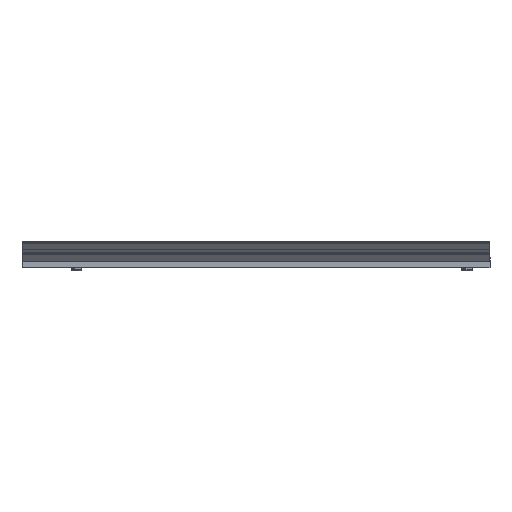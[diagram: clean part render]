
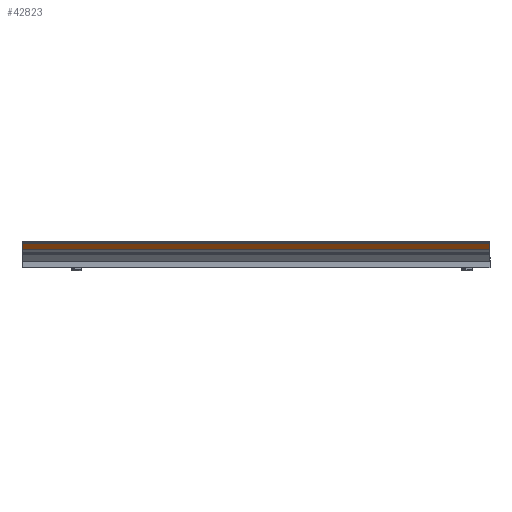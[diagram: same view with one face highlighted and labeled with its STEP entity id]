
A CAD part, left-side view. The second image highlights one B-rep face of the part: STEP entity #42823.
In plain terms, the highlighted planar face has unit normal (-0.763, 0, -0.646) as drawn and (-0.764, 0.646, 0) by its records, which use the part's own axes.
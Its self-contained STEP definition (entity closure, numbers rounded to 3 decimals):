
#1925 = DIRECTION ( 'NONE',  ( -0.646, -0.764, 0. ) ) ;
#2228 = DIRECTION ( 'NONE',  ( 0.764, -0.646, 0. ) ) ;
#3270 = VECTOR ( 'NONE', #43102, 1000. ) ;
#5036 = ORIENTED_EDGE ( 'NONE', *, *, #45862, .F. ) ;
#5050 = EDGE_LOOP ( 'NONE', ( #25453, #5036, #36430, #10310 ) ) ;
#5316 = EDGE_CURVE ( 'NONE', #7653, #39634, #35672, .T. ) ;
#5528 = AXIS2_PLACEMENT_3D ( 'NONE', #35223, #2228, #38105 ) ;
#5824 = FACE_OUTER_BOUND ( 'NONE', #5050, .T. ) ;
#6752 = CARTESIAN_POINT ( 'NONE',  ( -99.721, -31.378, 1800. ) ) ;
#6822 = CARTESIAN_POINT ( 'NONE',  ( -99.721, -31.378, 1800. ) ) ;
#7374 = VECTOR ( 'NONE', #1925, 1000. ) ;
#7594 = CARTESIAN_POINT ( 'NONE',  ( -120.063, -55.429, 1800. ) ) ;
#7653 = VERTEX_POINT ( 'NONE', #47614 ) ;
#10310 = ORIENTED_EDGE ( 'NONE', *, *, #5316, .T. ) ;
#14217 = DIRECTION ( 'NONE',  ( 0., 0., -1. ) ) ;
#16308 = EDGE_CURVE ( 'NONE', #7653, #47102, #36210, .T. ) ;
#17691 = EDGE_CURVE ( 'NONE', #39634, #19669, #43099, .T. ) ;
#18956 = VECTOR ( 'NONE', #22247, 1000. ) ;
#19669 = VERTEX_POINT ( 'NONE', #44037 ) ;
#20537 = PLANE ( 'NONE',  #5528 ) ;
#22247 = DIRECTION ( 'NONE',  ( -0.646, -0.764, 0. ) ) ;
#24814 = LINE ( 'NONE', #39937, #3270 ) ;
#25453 = ORIENTED_EDGE ( 'NONE', *, *, #17691, .T. ) ;
#28183 = CARTESIAN_POINT ( 'NONE',  ( -99.721, -31.378, 0. ) ) ;
#31109 = VECTOR ( 'NONE', #14217, 1000. ) ;
#35223 = CARTESIAN_POINT ( 'NONE',  ( -99.721, -31.378, 1800. ) ) ;
#35672 = LINE ( 'NONE', #6752, #31109 ) ;
#36210 = LINE ( 'NONE', #6822, #18956 ) ;
#36430 = ORIENTED_EDGE ( 'NONE', *, *, #16308, .F. ) ;
#38105 = DIRECTION ( 'NONE',  ( 0.646, 0.764, 0. ) ) ;
#39634 = VERTEX_POINT ( 'NONE', #45987 ) ;
#39937 = CARTESIAN_POINT ( 'NONE',  ( -120.063, -55.429, 1800. ) ) ;
#42823 = ADVANCED_FACE ( 'NONE', ( #5824 ), #20537, .F. ) ;
#43099 = LINE ( 'NONE', #28183, #7374 ) ;
#43102 = DIRECTION ( 'NONE',  ( 0., 0., -1. ) ) ;
#44037 = CARTESIAN_POINT ( 'NONE',  ( -120.063, -55.429, 0. ) ) ;
#45862 = EDGE_CURVE ( 'NONE', #47102, #19669, #24814, .T. ) ;
#45987 = CARTESIAN_POINT ( 'NONE',  ( -99.721, -31.378, 0. ) ) ;
#47102 = VERTEX_POINT ( 'NONE', #7594 ) ;
#47614 = CARTESIAN_POINT ( 'NONE',  ( -99.721, -31.378, 1800. ) ) ;
